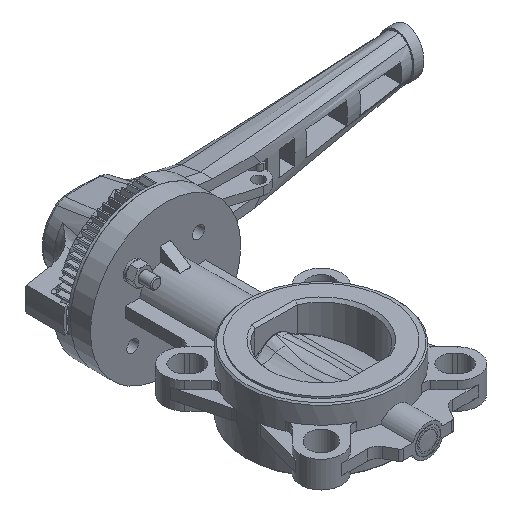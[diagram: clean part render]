
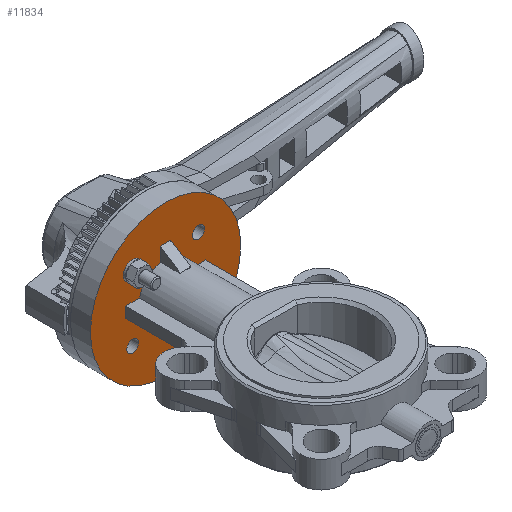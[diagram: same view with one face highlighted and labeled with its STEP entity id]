
A CAD part, isometric view. The second image highlights one B-rep face of the part: STEP entity #11834.
In plain terms, the highlighted planar face has unit normal (0, -1, 0).
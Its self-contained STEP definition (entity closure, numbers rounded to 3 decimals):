
#427=LINE('',#17284,#1293);
#461=LINE('',#17525,#1327);
#465=LINE('',#17535,#1331);
#468=LINE('',#17540,#1334);
#469=LINE('',#17555,#1335);
#470=LINE('',#17557,#1336);
#471=LINE('',#17559,#1337);
#472=LINE('',#17563,#1338);
#473=LINE('',#17565,#1339);
#474=LINE('',#17567,#1340);
#475=LINE('',#17571,#1341);
#476=LINE('',#17572,#1342);
#1293=VECTOR('',#13849,10.404);
#1327=VECTOR('',#13971,10.404);
#1331=VECTOR('',#13981,8.);
#1334=VECTOR('',#13986,10.404);
#1335=VECTOR('',#14001,10.404);
#1336=VECTOR('',#14002,8.);
#1337=VECTOR('',#14003,10.404);
#1338=VECTOR('',#14006,10.404);
#1339=VECTOR('',#14007,8.);
#1340=VECTOR('',#14008,10.404);
#1341=VECTOR('',#14011,10.404);
#1342=VECTOR('',#14012,8.);
#2440=PLANE('',#12619);
#2775=FACE_BOUND('',#3647,.T.);
#2776=FACE_BOUND('',#3648,.T.);
#2777=FACE_BOUND('',#3649,.T.);
#2778=FACE_BOUND('',#3650,.T.);
#2779=FACE_BOUND('',#3651,.T.);
#2911=FACE_OUTER_BOUND('',#3646,.T.);
#3646=EDGE_LOOP('',(#8124));
#3647=EDGE_LOOP('',(#8125));
#3648=EDGE_LOOP('',(#8126));
#3649=EDGE_LOOP('',(#8127));
#3650=EDGE_LOOP('',(#8128));
#3651=EDGE_LOOP('',(#8129,#8130,#8131,#8132,#8133,#8134,#8135,#8136,#8137,
#8138,#8139,#8140,#8141,#8142,#8143,#8144));
#4516=CIRCLE('',#12620,56.5);
#4517=CIRCLE('',#12621,4.5);
#4518=CIRCLE('',#12622,4.5);
#4519=CIRCLE('',#12623,4.5);
#4520=CIRCLE('',#12624,4.5);
#4521=CIRCLE('',#12625,20.);
#4522=CIRCLE('',#12626,20.);
#4523=CIRCLE('',#12627,20.);
#4524=CIRCLE('',#12628,20.);
#5046=VERTEX_POINT('',#17281);
#5047=VERTEX_POINT('',#17283);
#5113=VERTEX_POINT('',#17522);
#5114=VERTEX_POINT('',#17524);
#5117=VERTEX_POINT('',#17534);
#5118=VERTEX_POINT('',#17538);
#5119=VERTEX_POINT('',#17542);
#5120=VERTEX_POINT('',#17544);
#5121=VERTEX_POINT('',#17546);
#5122=VERTEX_POINT('',#17548);
#5123=VERTEX_POINT('',#17550);
#5124=VERTEX_POINT('',#17552);
#5125=VERTEX_POINT('',#17554);
#5126=VERTEX_POINT('',#17556);
#5127=VERTEX_POINT('',#17558);
#5128=VERTEX_POINT('',#17560);
#5129=VERTEX_POINT('',#17562);
#5130=VERTEX_POINT('',#17564);
#5131=VERTEX_POINT('',#17566);
#5132=VERTEX_POINT('',#17568);
#5133=VERTEX_POINT('',#17570);
#6225=EDGE_CURVE('',#5047,#5046,#427,.T.);
#6299=EDGE_CURVE('',#5114,#5113,#461,.T.);
#6304=EDGE_CURVE('',#5117,#5114,#465,.T.);
#6307=EDGE_CURVE('',#5118,#5117,#468,.T.);
#6308=EDGE_CURVE('',#5119,#5119,#4516,.T.);
#6309=EDGE_CURVE('',#5120,#5120,#4517,.T.);
#6310=EDGE_CURVE('',#5121,#5121,#4518,.T.);
#6311=EDGE_CURVE('',#5122,#5122,#4519,.T.);
#6312=EDGE_CURVE('',#5123,#5123,#4520,.T.);
#6313=EDGE_CURVE('',#5113,#5124,#4521,.T.);
#6314=EDGE_CURVE('',#5124,#5125,#469,.T.);
#6315=EDGE_CURVE('',#5125,#5126,#470,.T.);
#6316=EDGE_CURVE('',#5126,#5127,#471,.T.);
#6317=EDGE_CURVE('',#5127,#5128,#4522,.T.);
#6318=EDGE_CURVE('',#5128,#5129,#472,.T.);
#6319=EDGE_CURVE('',#5129,#5130,#473,.T.);
#6320=EDGE_CURVE('',#5130,#5131,#474,.T.);
#6321=EDGE_CURVE('',#5131,#5132,#4523,.T.);
#6322=EDGE_CURVE('',#5132,#5133,#475,.T.);
#6323=EDGE_CURVE('',#5133,#5047,#476,.T.);
#6324=EDGE_CURVE('',#5046,#5118,#4524,.T.);
#8124=ORIENTED_EDGE('',*,*,#6308,.T.);
#8125=ORIENTED_EDGE('',*,*,#6309,.T.);
#8126=ORIENTED_EDGE('',*,*,#6310,.T.);
#8127=ORIENTED_EDGE('',*,*,#6311,.T.);
#8128=ORIENTED_EDGE('',*,*,#6312,.T.);
#8129=ORIENTED_EDGE('',*,*,#6307,.T.);
#8130=ORIENTED_EDGE('',*,*,#6304,.T.);
#8131=ORIENTED_EDGE('',*,*,#6299,.T.);
#8132=ORIENTED_EDGE('',*,*,#6313,.T.);
#8133=ORIENTED_EDGE('',*,*,#6314,.T.);
#8134=ORIENTED_EDGE('',*,*,#6315,.T.);
#8135=ORIENTED_EDGE('',*,*,#6316,.T.);
#8136=ORIENTED_EDGE('',*,*,#6317,.T.);
#8137=ORIENTED_EDGE('',*,*,#6318,.T.);
#8138=ORIENTED_EDGE('',*,*,#6319,.T.);
#8139=ORIENTED_EDGE('',*,*,#6320,.T.);
#8140=ORIENTED_EDGE('',*,*,#6321,.T.);
#8141=ORIENTED_EDGE('',*,*,#6322,.T.);
#8142=ORIENTED_EDGE('',*,*,#6323,.T.);
#8143=ORIENTED_EDGE('',*,*,#6225,.T.);
#8144=ORIENTED_EDGE('',*,*,#6324,.T.);
#11834=ADVANCED_FACE('',(#2911,#2775,#2776,#2777,#2778,#2779),#2440,.F.);
#12619=AXIS2_PLACEMENT_3D('',#17541,#13987,#13988);
#12620=AXIS2_PLACEMENT_3D('',#17543,#13989,#13990);
#12621=AXIS2_PLACEMENT_3D('',#17545,#13991,#13992);
#12622=AXIS2_PLACEMENT_3D('',#17547,#13993,#13994);
#12623=AXIS2_PLACEMENT_3D('',#17549,#13995,#13996);
#12624=AXIS2_PLACEMENT_3D('',#17551,#13997,#13998);
#12625=AXIS2_PLACEMENT_3D('',#17553,#13999,#14000);
#12626=AXIS2_PLACEMENT_3D('',#17561,#14004,#14005);
#12627=AXIS2_PLACEMENT_3D('',#17569,#14009,#14010);
#12628=AXIS2_PLACEMENT_3D('',#17573,#14013,#14014);
#13849=DIRECTION('',(-1.,0.,0.));
#13971=DIRECTION('',(0.,0.,1.));
#13981=DIRECTION('',(-1.,0.,0.));
#13986=DIRECTION('',(0.,0.,-1.));
#13987=DIRECTION('center_axis',(0.,1.,0.));
#13988=DIRECTION('ref_axis',(0.,0.,1.));
#13989=DIRECTION('center_axis',(0.,-1.,0.));
#13990=DIRECTION('ref_axis',(1.,0.,0.));
#13991=DIRECTION('center_axis',(0.,1.,0.));
#13992=DIRECTION('ref_axis',(1.,0.,0.));
#13993=DIRECTION('center_axis',(0.,1.,0.));
#13994=DIRECTION('ref_axis',(1.,0.,0.));
#13995=DIRECTION('center_axis',(0.,1.,0.));
#13996=DIRECTION('ref_axis',(1.,0.,0.));
#13997=DIRECTION('center_axis',(0.,1.,0.));
#13998=DIRECTION('ref_axis',(1.,0.,0.));
#13999=DIRECTION('center_axis',(0.,1.,0.));
#14000=DIRECTION('ref_axis',(1.,0.,0.));
#14001=DIRECTION('',(-1.,0.,0.));
#14002=DIRECTION('',(0.,0.,1.));
#14003=DIRECTION('',(1.,0.,0.));
#14004=DIRECTION('center_axis',(0.,1.,0.));
#14005=DIRECTION('ref_axis',(1.,0.,0.));
#14006=DIRECTION('',(0.,0.,1.));
#14007=DIRECTION('',(1.,0.,0.));
#14008=DIRECTION('',(0.,0.,-1.));
#14009=DIRECTION('center_axis',(0.,1.,0.));
#14010=DIRECTION('ref_axis',(1.,0.,0.));
#14011=DIRECTION('',(1.,0.,0.));
#14012=DIRECTION('',(0.,0.,-1.));
#14013=DIRECTION('center_axis',(0.,1.,0.));
#14014=DIRECTION('ref_axis',(1.,0.,0.));
#17281=CARTESIAN_POINT('',(19.596,117.,-4.));
#17283=CARTESIAN_POINT('',(30.,117.,-4.));
#17284=CARTESIAN_POINT('',(12.816,117.,-4.));
#17522=CARTESIAN_POINT('',(-4.,117.,-19.596));
#17524=CARTESIAN_POINT('',(-4.,117.,-30.));
#17525=CARTESIAN_POINT('',(-4.,117.,-6.628));
#17534=CARTESIAN_POINT('',(4.,117.,-30.));
#17535=CARTESIAN_POINT('',(0.,117.,-30.));
#17538=CARTESIAN_POINT('',(4.,117.,-19.596));
#17540=CARTESIAN_POINT('',(4.,117.,-6.628));
#17541=CARTESIAN_POINT('Origin',(0.,117.,0.));
#17542=CARTESIAN_POINT('',(-56.5,117.,0.));
#17543=CARTESIAN_POINT('Origin',(0.,117.,0.));
#17544=CARTESIAN_POINT('',(-29.249,117.,-24.749));
#17545=CARTESIAN_POINT('Origin',(-24.749,117.,-24.749));
#17546=CARTESIAN_POINT('',(-29.249,117.,24.749));
#17547=CARTESIAN_POINT('Origin',(-24.749,117.,24.749));
#17548=CARTESIAN_POINT('',(20.249,117.,-24.749));
#17549=CARTESIAN_POINT('Origin',(24.749,117.,-24.749));
#17550=CARTESIAN_POINT('',(20.249,117.,24.749));
#17551=CARTESIAN_POINT('Origin',(24.749,117.,24.749));
#17552=CARTESIAN_POINT('',(-19.596,117.,-4.));
#17553=CARTESIAN_POINT('Origin',(0.,117.,0.));
#17554=CARTESIAN_POINT('',(-30.,117.,-4.));
#17555=CARTESIAN_POINT('',(-12.816,117.,-4.));
#17556=CARTESIAN_POINT('',(-30.,117.,4.));
#17557=CARTESIAN_POINT('',(-30.,117.,0.));
#17558=CARTESIAN_POINT('',(-19.596,117.,4.));
#17559=CARTESIAN_POINT('',(-12.816,117.,4.));
#17560=CARTESIAN_POINT('',(-4.,117.,19.596));
#17561=CARTESIAN_POINT('Origin',(0.,117.,0.));
#17562=CARTESIAN_POINT('',(-4.,117.,30.));
#17563=CARTESIAN_POINT('',(-4.,117.,6.628));
#17564=CARTESIAN_POINT('',(4.,117.,30.));
#17565=CARTESIAN_POINT('',(0.,117.,30.));
#17566=CARTESIAN_POINT('',(4.,117.,19.596));
#17567=CARTESIAN_POINT('',(4.,117.,6.628));
#17568=CARTESIAN_POINT('',(19.596,117.,4.));
#17569=CARTESIAN_POINT('Origin',(0.,117.,0.));
#17570=CARTESIAN_POINT('',(30.,117.,4.));
#17571=CARTESIAN_POINT('',(12.816,117.,4.));
#17572=CARTESIAN_POINT('',(30.,117.,0.));
#17573=CARTESIAN_POINT('Origin',(0.,117.,0.));
